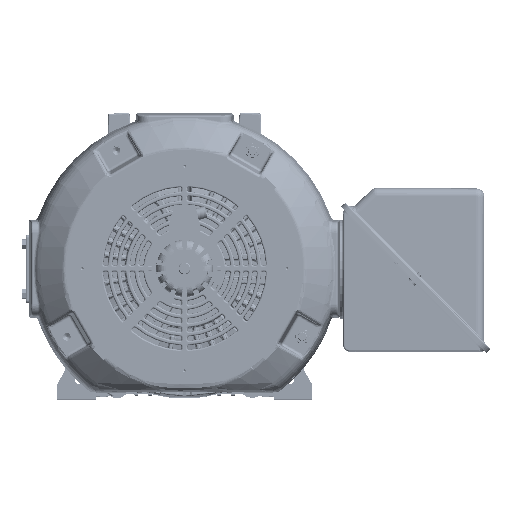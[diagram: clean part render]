
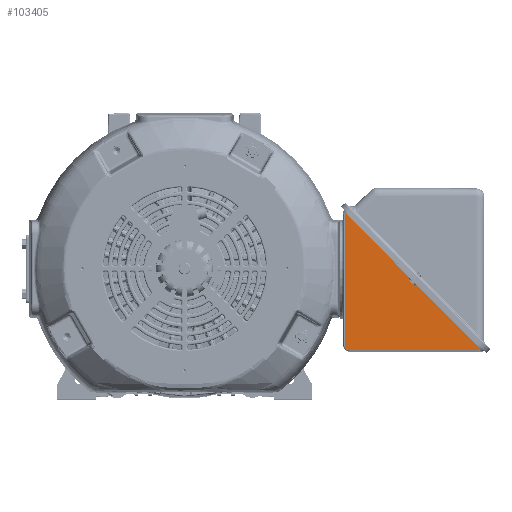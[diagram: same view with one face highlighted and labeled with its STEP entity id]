
A CAD part, top view. The second image highlights one B-rep face of the part: STEP entity #103405.
In plain terms, the highlighted planar face has unit normal (0, 0, 1).
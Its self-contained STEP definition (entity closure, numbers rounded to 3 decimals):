
#2693 = CARTESIAN_POINT ( 'NONE',  ( 18.838, -0.916, -4.72 ) ) ;
#2898 = CARTESIAN_POINT ( 'NONE',  ( 13.49, -6.38, -4.72 ) ) ;
#3054 = VERTEX_POINT ( 'NONE', #229398 ) ;
#10076 = VECTOR ( 'NONE', #271645, 39.37 ) ;
#13284 = VECTOR ( 'NONE', #103318, 39.37 ) ;
#14122 = ORIENTED_EDGE ( 'NONE', *, *, #354167, .T. ) ;
#16901 = CARTESIAN_POINT ( 'NONE',  ( 7.635, -1.167, -4.72 ) ) ;
#26995 = CARTESIAN_POINT ( 'NONE',  ( 13.49, 4.65, -4.72 ) ) ;
#31720 = EDGE_CURVE ( 'NONE', #213099, #87096, #149390, .T. ) ;
#34380 = VECTOR ( 'NONE', #272191, 39.37 ) ;
#34917 = CARTESIAN_POINT ( 'NONE',  ( 13.93, -6.38, -4.72 ) ) ;
#35756 = CARTESIAN_POINT ( 'NONE',  ( 18.825, -0.761, -4.72 ) ) ;
#38560 = CARTESIAN_POINT ( 'NONE',  ( 13.93, -6.38, -4.72 ) ) ;
#38725 = DIRECTION ( 'NONE',  ( -0.705, 0.709, 0. ) ) ;
#39211 = EDGE_CURVE ( 'NONE', #353865, #3054, #43851, .T. ) ;
#40313 = DIRECTION ( 'NONE',  ( 0.705, -0.709, 0. ) ) ;
#42136 = ORIENTED_EDGE ( 'NONE', *, *, #139066, .T. ) ;
#43851 = LINE ( 'NONE', #162399, #374576 ) ;
#49485 = CARTESIAN_POINT ( 'NONE',  ( 18.945, -0.761, -4.72 ) ) ;
#51097 = ORIENTED_EDGE ( 'NONE', *, *, #124009, .T. ) ;
#54768 = CARTESIAN_POINT ( 'NONE',  ( 19.029, -12.636, -4.72 ) ) ;
#58241 = EDGE_CURVE ( 'NONE', #248300, #213099, #289930, .T. ) ;
#61253 = VERTEX_POINT ( 'NONE', #378798 ) ;
#65315 = CARTESIAN_POINT ( 'NONE',  ( 18.825, -0.761, -4.72 ) ) ;
#70483 = DIRECTION ( 'NONE',  ( 1., 0., 0. ) ) ;
#84882 = CARTESIAN_POINT ( 'NONE',  ( 19.615, -1.385, -4.72 ) ) ;
#87096 = VERTEX_POINT ( 'NONE', #204030 ) ;
#99803 = ORIENTED_EDGE ( 'NONE', *, *, #298886, .T. ) ;
#103318 = DIRECTION ( 'NONE',  ( 0.709, 0.705, 0. ) ) ;
#103405 = ADVANCED_FACE ( 'NONE', ( #377652 ), #185889, .T. ) ;
#107230 = CARTESIAN_POINT ( 'NONE',  ( 19.288, -1.057, -4.72 ) ) ;
#110405 = VECTOR ( 'NONE', #112358, 39.37 ) ;
#112358 = DIRECTION ( 'NONE',  ( 0.709, 0.705, 0. ) ) ;
#117217 = CARTESIAN_POINT ( 'NONE',  ( 13.93, -6.82, -4.72 ) ) ;
#122352 = CIRCLE ( 'NONE', #131858, 0.12 ) ;
#124009 = EDGE_CURVE ( 'NONE', #248300, #61253, #383123, .T. ) ;
#127886 = DIRECTION ( 'NONE',  ( 0., 0., 1. ) ) ;
#131858 = AXIS2_PLACEMENT_3D ( 'NONE', #286623, #350493, #70483 ) ;
#133734 = LINE ( 'NONE', #143570, #187184 ) ;
#139066 = EDGE_CURVE ( 'NONE', #3054, #340289, #239341, .T. ) ;
#143570 = CARTESIAN_POINT ( 'NONE',  ( 24.762, -6.82, -4.72 ) ) ;
#144129 = VECTOR ( 'NONE', #40313, 39.37 ) ;
#144915 = DIRECTION ( 'NONE',  ( 1., 0., 0. ) ) ;
#145517 = EDGE_CURVE ( 'NONE', #153404, #353865, #352572, .T. ) ;
#149390 = LINE ( 'NONE', #359705, #110405 ) ;
#149575 = EDGE_CURVE ( 'NONE', #340289, #297985, #156047, .T. ) ;
#153404 = VERTEX_POINT ( 'NONE', #49485 ) ;
#155296 = ORIENTED_EDGE ( 'NONE', *, *, #31720, .F. ) ;
#156047 = LINE ( 'NONE', #394089, #10076 ) ;
#159957 = CARTESIAN_POINT ( 'NONE',  ( 18.838, -0.916, -4.72 ) ) ;
#162399 = CARTESIAN_POINT ( 'NONE',  ( 19.288, -1.057, -4.72 ) ) ;
#166486 = ORIENTED_EDGE ( 'NONE', *, *, #208907, .T. ) ;
#171436 = CARTESIAN_POINT ( 'NONE',  ( 24.883, -6.82, -4.72 ) ) ;
#172435 = DIRECTION ( 'NONE',  ( -0.705, 0.709, 0. ) ) ;
#185889 = PLANE ( 'NONE',  #226423 ) ;
#187184 = VECTOR ( 'NONE', #144915, 39.37 ) ;
#190366 = DIRECTION ( 'NONE',  ( 1., 0., 0. ) ) ;
#204030 = CARTESIAN_POINT ( 'NONE',  ( 19.445, -1.385, -4.72 ) ) ;
#206224 = EDGE_LOOP ( 'NONE', ( #42136, #361228, #391096, #14122, #309319, #99803, #166486, #155296, #292508, #51097, #401498, #302145, #361262 ) ) ;
#208907 = EDGE_CURVE ( 'NONE', #216132, #87096, #122352, .T. ) ;
#213099 = VERTEX_POINT ( 'NONE', #226300 ) ;
#216132 = VERTEX_POINT ( 'NONE', #84882 ) ;
#220592 = DIRECTION ( 'NONE',  ( 0., 0., 1. ) ) ;
#223371 = DIRECTION ( 'NONE',  ( 0., 0., 1. ) ) ;
#226300 = CARTESIAN_POINT ( 'NONE',  ( 19.374, -1.455, -4.72 ) ) ;
#226423 = AXIS2_PLACEMENT_3D ( 'NONE', #34917, #376128, #313582 ) ;
#229398 = CARTESIAN_POINT ( 'NONE',  ( 13.555, 4.714, -4.72 ) ) ;
#231559 = CARTESIAN_POINT ( 'NONE',  ( 18.91, -0.676, -4.72 ) ) ;
#239341 = LINE ( 'NONE', #16901, #385258 ) ;
#244147 = CIRCLE ( 'NONE', #287831, 0.44 ) ;
#248300 = VERTEX_POINT ( 'NONE', #319518 ) ;
#255430 = EDGE_CURVE ( 'NONE', #332268, #339746, #306599, .T. ) ;
#264379 = DIRECTION ( 'NONE',  ( -0.709, -0.705, 0. ) ) ;
#265346 = AXIS2_PLACEMENT_3D ( 'NONE', #35756, #220592, #313076 ) ;
#270519 = VECTOR ( 'NONE', #172435, 39.37 ) ;
#271645 = DIRECTION ( 'NONE',  ( 0., -1., 0. ) ) ;
#272191 = DIRECTION ( 'NONE',  ( 0.709, 0.705, 0. ) ) ;
#275144 = LINE ( 'NONE', #107230, #270519 ) ;
#286623 = CARTESIAN_POINT ( 'NONE',  ( 19.529, -1.47, -4.72 ) ) ;
#287831 = AXIS2_PLACEMENT_3D ( 'NONE', #38560, #223371, #378401 ) ;
#289930 = LINE ( 'NONE', #159957, #144129 ) ;
#292508 = ORIENTED_EDGE ( 'NONE', *, *, #58241, .F. ) ;
#297985 = VERTEX_POINT ( 'NONE', #2898 ) ;
#298886 = EDGE_CURVE ( 'NONE', #339746, #216132, #275144, .T. ) ;
#302145 = ORIENTED_EDGE ( 'NONE', *, *, #145517, .T. ) ;
#306599 = LINE ( 'NONE', #54768, #34380 ) ;
#309319 = ORIENTED_EDGE ( 'NONE', *, *, #255430, .T. ) ;
#310227 = CARTESIAN_POINT ( 'NONE',  ( 24.949, -6.754, -4.72 ) ) ;
#313076 = DIRECTION ( 'NONE',  ( 1., 0., 0. ) ) ;
#313582 = DIRECTION ( 'NONE',  ( 1., 0., 0. ) ) ;
#318940 = EDGE_CURVE ( 'NONE', #297985, #322233, #244147, .T. ) ;
#319518 = CARTESIAN_POINT ( 'NONE',  ( 18.838, -0.916, -4.72 ) ) ;
#322233 = VERTEX_POINT ( 'NONE', #117217 ) ;
#322823 = EDGE_CURVE ( 'NONE', #61253, #153404, #334102, .T. ) ;
#332268 = VERTEX_POINT ( 'NONE', #171436 ) ;
#334102 = CIRCLE ( 'NONE', #400998, 0.12 ) ;
#339746 = VERTEX_POINT ( 'NONE', #310227 ) ;
#340289 = VERTEX_POINT ( 'NONE', #26995 ) ;
#350493 = DIRECTION ( 'NONE',  ( 0., 0., 1. ) ) ;
#352572 = CIRCLE ( 'NONE', #265346, 0.12 ) ;
#353865 = VERTEX_POINT ( 'NONE', #231559 ) ;
#354167 = EDGE_CURVE ( 'NONE', #322233, #332268, #133734, .T. ) ;
#359705 = CARTESIAN_POINT ( 'NONE',  ( 19.374, -1.455, -4.72 ) ) ;
#361228 = ORIENTED_EDGE ( 'NONE', *, *, #149575, .T. ) ;
#361262 = ORIENTED_EDGE ( 'NONE', *, *, #39211, .T. ) ;
#374576 = VECTOR ( 'NONE', #38725, 39.37 ) ;
#376128 = DIRECTION ( 'NONE',  ( 0., 0., 1. ) ) ;
#377652 = FACE_OUTER_BOUND ( 'NONE', #206224, .T. ) ;
#378401 = DIRECTION ( 'NONE',  ( 1., 0., 0. ) ) ;
#378798 = CARTESIAN_POINT ( 'NONE',  ( 18.909, -0.846, -4.72 ) ) ;
#383123 = LINE ( 'NONE', #2693, #13284 ) ;
#385258 = VECTOR ( 'NONE', #264379, 39.37 ) ;
#391096 = ORIENTED_EDGE ( 'NONE', *, *, #318940, .T. ) ;
#394089 = CARTESIAN_POINT ( 'NONE',  ( 13.49, -6.38, -4.72 ) ) ;
#400998 = AXIS2_PLACEMENT_3D ( 'NONE', #65315, #127886, #190366 ) ;
#401498 = ORIENTED_EDGE ( 'NONE', *, *, #322823, .T. ) ;
